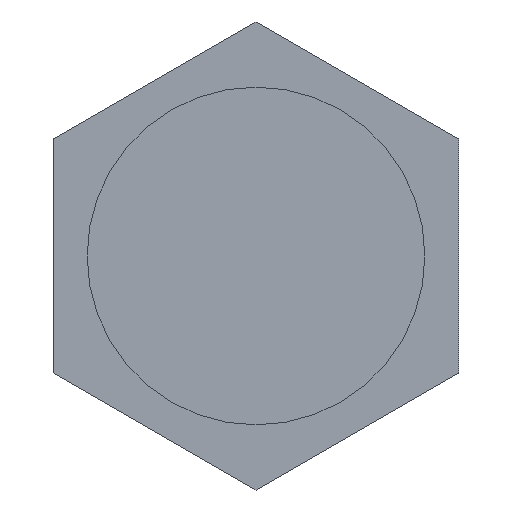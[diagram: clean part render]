
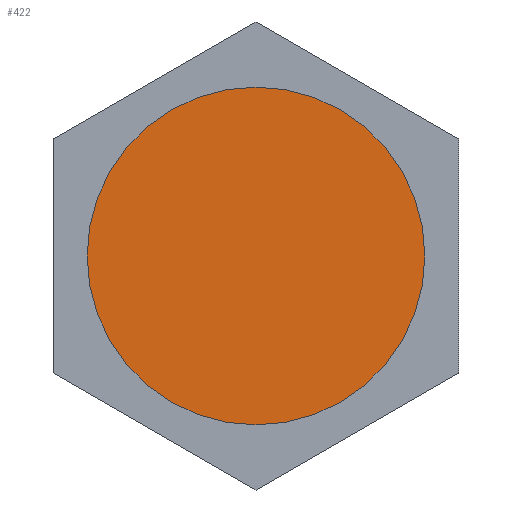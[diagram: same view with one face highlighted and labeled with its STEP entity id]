
A CAD part, front view. The second image highlights one B-rep face of the part: STEP entity #422.
In plain terms, the highlighted planar face has unit normal (0, -1, 0).
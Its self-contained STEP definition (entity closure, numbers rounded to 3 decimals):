
#50 = EDGE_CURVE ( 'NONE', #925, #926, #1351, .T. ) ;
#96 = EDGE_CURVE ( 'NONE', #926, #925, #1422, .T. ) ;
#140 = AXIS2_PLACEMENT_3D ( 'NONE', #1048, #1034, #1033 ) ;
#163 = AXIS2_PLACEMENT_3D ( 'NONE', #881, #860, #858 ) ;
#215 = AXIS2_PLACEMENT_3D ( 'NONE', #639, #632, #631 ) ;
#294 = CARTESIAN_POINT ( 'NONE',  ( 0., 0., 10. ) ) ;
#295 = CARTESIAN_POINT ( 'NONE',  ( 0., 0., -10. ) ) ;
#422 = ADVANCED_FACE ( 'NONE', ( #1526 ), #636, .F. ) ;
#469 = ORIENTED_EDGE ( 'NONE', *, *, #96, .F. ) ;
#470 = ORIENTED_EDGE ( 'NONE', *, *, #50, .F. ) ;
#631 = DIRECTION ( 'NONE',  ( 0., 0., 1. ) ) ;
#632 = DIRECTION ( 'NONE',  ( 0., 1., 0. ) ) ;
#636 = PLANE ( 'NONE',  #215 ) ;
#639 = CARTESIAN_POINT ( 'NONE',  ( 0., 0., 0. ) ) ;
#858 = DIRECTION ( 'NONE',  ( 0., 0., 1. ) ) ;
#860 = DIRECTION ( 'NONE',  ( 0., 1., 0. ) ) ;
#881 = CARTESIAN_POINT ( 'NONE',  ( 0., 0., 0. ) ) ;
#925 = VERTEX_POINT ( 'NONE', #295 ) ;
#926 = VERTEX_POINT ( 'NONE', #294 ) ;
#1033 = DIRECTION ( 'NONE',  ( 0., 0., 1. ) ) ;
#1034 = DIRECTION ( 'NONE',  ( 0., 1., 0. ) ) ;
#1048 = CARTESIAN_POINT ( 'NONE',  ( 0., 0., 0. ) ) ;
#1254 = EDGE_LOOP ( 'NONE', ( #470, #469 ) ) ;
#1351 = CIRCLE ( 'NONE', #140, 10. ) ;
#1422 = CIRCLE ( 'NONE', #163, 10. ) ;
#1526 = FACE_OUTER_BOUND ( 'NONE', #1254, .T. ) ;
